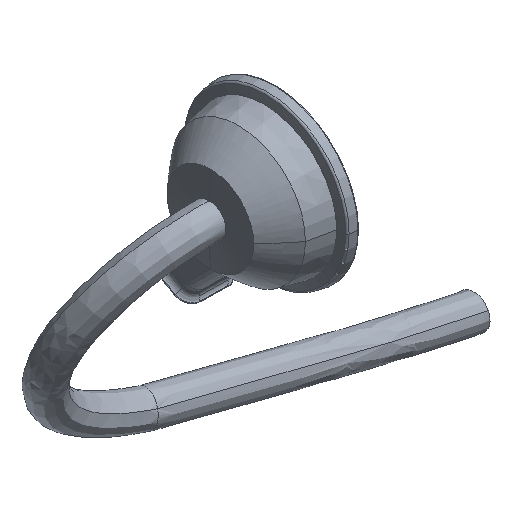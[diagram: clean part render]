
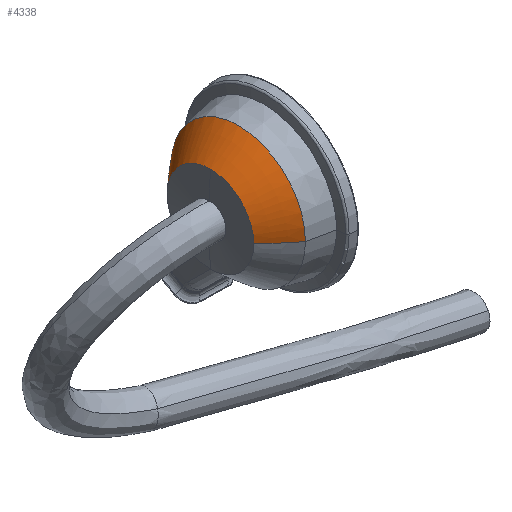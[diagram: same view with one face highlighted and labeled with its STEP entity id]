
A CAD part, isometric view. The second image highlights one B-rep face of the part: STEP entity #4338.
In plain terms, the highlighted toroidal (fillet/blend) face has major radius 495.487 mm and minor radius 759.141 mm.
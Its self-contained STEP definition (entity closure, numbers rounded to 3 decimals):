
#201 = EDGE_CURVE ( 'NONE', #3676, #1745, #4947, .T. ) ;
#408 = ORIENTED_EDGE ( 'NONE', *, *, #6723, .F. ) ;
#729 = CARTESIAN_POINT ( 'NONE',  ( -60., -65., 1800. ) ) ;
#1235 = DIRECTION ( 'NONE',  ( -1., 0., 0. ) ) ;
#1281 = CARTESIAN_POINT ( 'NONE',  ( -18., 100.659, 1800. ) ) ;
#1328 = DIRECTION ( 'NONE',  ( -1., 0., 0. ) ) ;
#1474 = ORIENTED_EDGE ( 'NONE', *, *, #201, .F. ) ;
#1697 = CIRCLE ( 'NONE', #6121, 65. ) ;
#1745 = VERTEX_POINT ( 'NONE', #6044 ) ;
#1808 = ORIENTED_EDGE ( 'NONE', *, *, #4814, .T. ) ;
#2197 = CARTESIAN_POINT ( 'NONE',  ( -60., 0., 1800. ) ) ;
#2421 = CARTESIAN_POINT ( 'NONE',  ( 452.005, 0., 1800. ) ) ;
#2830 = AXIS2_PLACEMENT_3D ( 'NONE', #7586, #6394, #3430 ) ;
#2877 = FACE_OUTER_BOUND ( 'NONE', #9044, .T. ) ;
#2979 = AXIS2_PLACEMENT_3D ( 'NONE', #2421, #1235, #4360 ) ;
#3100 = CARTESIAN_POINT ( 'NONE',  ( -60., 65., 1800. ) ) ;
#3356 = CARTESIAN_POINT ( 'NONE',  ( -60., 0., 1800. ) ) ;
#3430 = DIRECTION ( 'NONE',  ( 0., 1., 0. ) ) ;
#3676 = VERTEX_POINT ( 'NONE', #1281 ) ;
#3901 = DIRECTION ( 'NONE',  ( 0., 0., 1. ) ) ;
#4091 = DIRECTION ( 'NONE',  ( 1., 0., 0. ) ) ;
#4338 = ADVANCED_FACE ( 'NONE', ( #2877 ), #11213, .T. ) ;
#4360 = DIRECTION ( 'NONE',  ( 0., 1., 0. ) ) ;
#4619 = ORIENTED_EDGE ( 'NONE', *, *, #11948, .F. ) ;
#4775 = DIRECTION ( 'NONE',  ( 0., -1., 0. ) ) ;
#4814 = EDGE_CURVE ( 'NONE', #3676, #12235, #5607, .T. ) ;
#4883 = EDGE_CURVE ( 'NONE', #8982, #7197, #5418, .T. ) ;
#4947 = CIRCLE ( 'NONE', #10383, 100.659 ) ;
#5154 = CARTESIAN_POINT ( 'NONE',  ( -18., 0., 1800. ) ) ;
#5418 = CIRCLE ( 'NONE', #10436, 65. ) ;
#5451 = DIRECTION ( 'NONE',  ( 0., 0., 1. ) ) ;
#5607 = CIRCLE ( 'NONE', #11222, 759.141 ) ;
#6044 = CARTESIAN_POINT ( 'NONE',  ( -18., -100.659, 1800. ) ) ;
#6121 = AXIS2_PLACEMENT_3D ( 'NONE', #3356, #9230, #5451 ) ;
#6394 = DIRECTION ( 'NONE',  ( 0., 0., -1. ) ) ;
#6723 = EDGE_CURVE ( 'NONE', #1745, #8982, #9071, .T. ) ;
#7197 = VERTEX_POINT ( 'NONE', #11966 ) ;
#7586 = CARTESIAN_POINT ( 'NONE',  ( 452.005, 495.487, 1800. ) ) ;
#8982 = VERTEX_POINT ( 'NONE', #729 ) ;
#9044 = EDGE_LOOP ( 'NONE', ( #1474, #1808, #4619, #11480, #408 ) ) ;
#9071 = CIRCLE ( 'NONE', #2830, 759.141 ) ;
#9230 = DIRECTION ( 'NONE',  ( -1., 0., 0. ) ) ;
#9640 = CARTESIAN_POINT ( 'NONE',  ( 452.005, -495.487, 1800. ) ) ;
#9887 = DIRECTION ( 'NONE',  ( 0., 1., 0. ) ) ;
#10383 = AXIS2_PLACEMENT_3D ( 'NONE', #5154, #4091, #9887 ) ;
#10436 = AXIS2_PLACEMENT_3D ( 'NONE', #2197, #1328, #10880 ) ;
#10880 = DIRECTION ( 'NONE',  ( 0., 0., 1. ) ) ;
#11213 = TOROIDAL_SURFACE ( 'NONE', #2979, -495.487, 759.141 ) ;
#11222 = AXIS2_PLACEMENT_3D ( 'NONE', #9640, #3901, #4775 ) ;
#11480 = ORIENTED_EDGE ( 'NONE', *, *, #4883, .F. ) ;
#11948 = EDGE_CURVE ( 'NONE', #7197, #12235, #1697, .T. ) ;
#11966 = CARTESIAN_POINT ( 'NONE',  ( -60., 0., 1865. ) ) ;
#12235 = VERTEX_POINT ( 'NONE', #3100 ) ;
